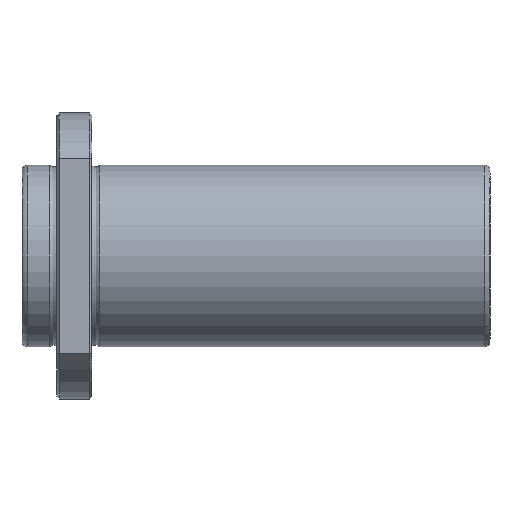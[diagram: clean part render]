
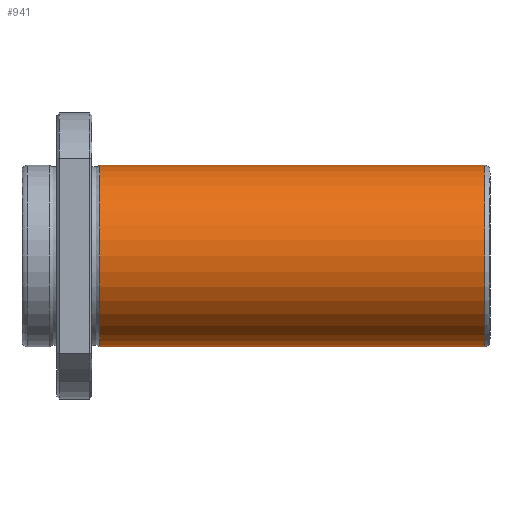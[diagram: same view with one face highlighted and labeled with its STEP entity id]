
A CAD part, front view. The second image highlights one B-rep face of the part: STEP entity #941.
In plain terms, the highlighted cylindrical face has radius 26 mm (diameter 52 mm), a full revolution.
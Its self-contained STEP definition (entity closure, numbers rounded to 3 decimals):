
#907=CARTESIAN_POINT('',(132.502,0.0,26.));
#908=VERTEX_POINT('',#907);
#909=CARTESIAN_POINT('',(132.502,0.0,0.0));
#910=DIRECTION('',(-1.0,0.0,0.0));
#911=DIRECTION('',(0.0,0.0,1.0));
#912=AXIS2_PLACEMENT_3D('',#909,#910,#911);
#913=CIRCLE('',#912,26.);
#914=EDGE_CURVE('',#908,#908,#913,.T.);
#922=CARTESIAN_POINT('',(77.362,0.0,0.0));
#923=DIRECTION('',(-1.0,0.0,0.0));
#924=DIRECTION('',(0.0,0.0,1.0));
#925=AXIS2_PLACEMENT_3D('',#922,#923,#924);
#926=CYLINDRICAL_SURFACE('',#925,26.);
#927=CARTESIAN_POINT('',(22.223,0.0,26.));
#928=VERTEX_POINT('',#927);
#929=CARTESIAN_POINT('',(22.223,0.0,0.0));
#930=DIRECTION('',(-1.0,0.0,0.0));
#931=DIRECTION('',(0.0,0.0,1.0));
#932=AXIS2_PLACEMENT_3D('',#929,#930,#931);
#933=CIRCLE('',#932,26.);
#934=EDGE_CURVE('',#928,#928,#933,.T.);
#935=ORIENTED_EDGE('',*,*,#934,.F.);
#936=EDGE_LOOP('',(#935));
#937=FACE_OUTER_BOUND('',#936,.T.);
#938=ORIENTED_EDGE('',*,*,#914,.T.);
#939=EDGE_LOOP('',(#938));
#940=FACE_BOUND('',#939,.T.);
#941=ADVANCED_FACE('',(#937,#940),#926,.T.);
